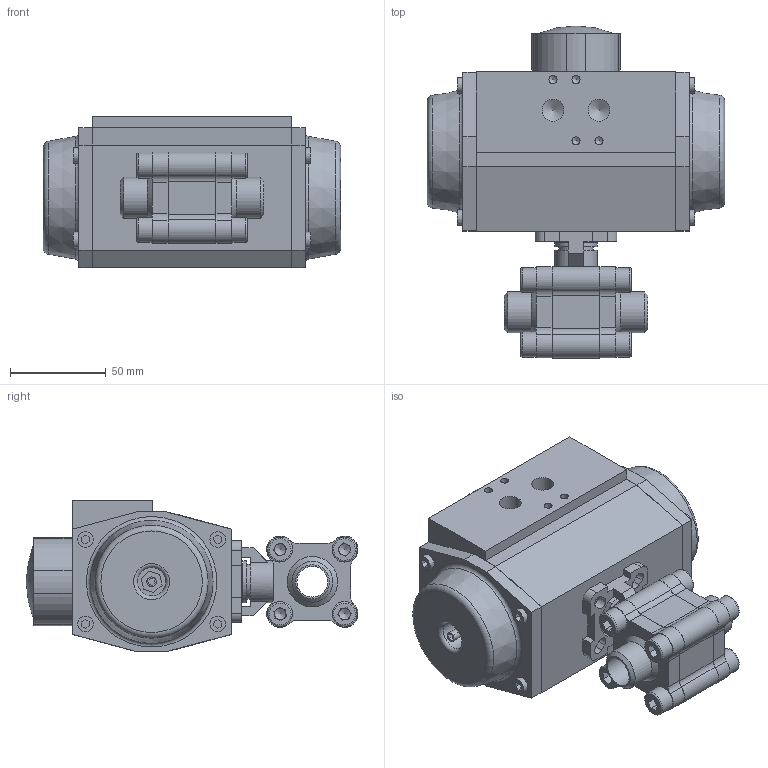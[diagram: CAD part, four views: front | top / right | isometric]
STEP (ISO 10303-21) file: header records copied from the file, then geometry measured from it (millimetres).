
FILE_DESCRIPTION (( 'STEP AP214' ), '1' );
FILE_NAME ('S33D BW DN15 + AP2.STEP', '2025-08-13T08:45:55', ( '' ), ( '' ), 'SwSTEP 2.0', 'SolidWorks 2021', '' );
FILE_SCHEMA (( 'AUTOMOTIVE_DESIGN' ));
Length unit declared in the file: millimetre
Products named in the file (6): S33D BW DN15 + AP2; AP2_Default<As Machined>; S33D KK DN15 PN100; S33D DN15 Buttweld; socket head cap screw_din_DIN 912 M8 x 20 --- 20N; S33D Flens Buttweld DN15
Assembly tree (13 placements, depth 3):
  S33D BW DN15 + AP2
    S33D DN15 Buttweld
      S33D KK DN15 PN100
      S33D Flens Buttweld DN15  x2
      socket head cap screw_din_DIN 912 M8 x 20 --- 20N  x8
    AP2_Default<As Machined>
Bounding box: 155 x 173.08 x 79 mm (x, y, z)
Volume: 943423.9 mm3; surface area: 115430.2 mm2
Topology: 19 solids, 19 shells, 533 faces, 1286 edges, 829 vertices
Faces by surface type: plane 356, cylinder 118, cone 36, torus 22, sphere 1
Full cylindrical faces by diameter (mm): 4.2 x12, 5 x2, 6.6 x4, 8 x8, 8.2 x8, 8.5 x8, 11.445 x2, 13 x8, 14.8 x2, 16 x3, 18 x1, 21.3 x2, 22 x2, 25 x1, 27 x1, 30 x1, 45.8 x1
Entity records: 11171 total; most frequent: CARTESIAN_POINT 1791, DIRECTION 1745, ORIENTED_EDGE 1596, EDGE_CURVE 798, LINE 595, VECTOR 595, AXIS2_PLACEMENT_3D 575, VERTEX_POINT 565
